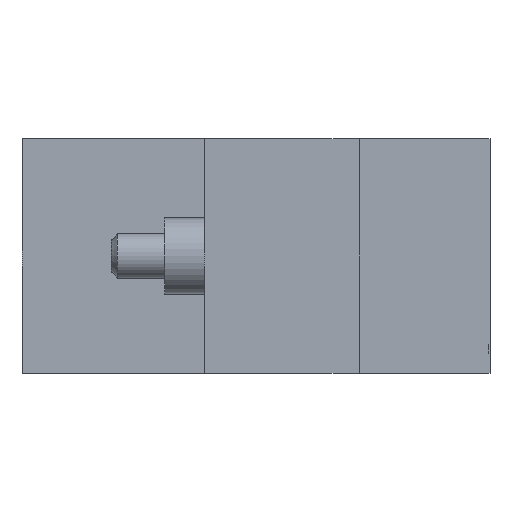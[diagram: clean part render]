
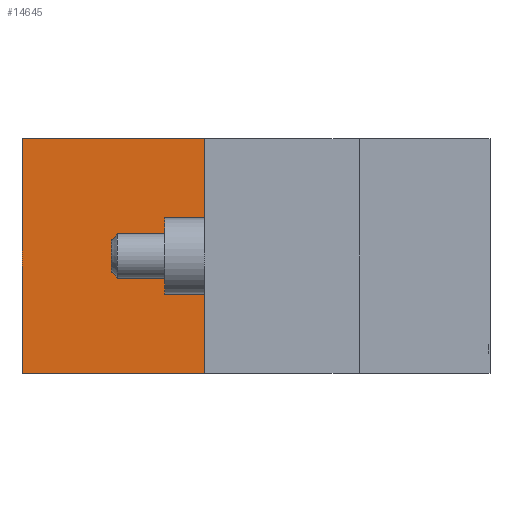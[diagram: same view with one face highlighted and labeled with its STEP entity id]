
A CAD part, front view. The second image highlights one B-rep face of the part: STEP entity #14645.
In plain terms, the highlighted planar face has unit normal (0, -1, 0).
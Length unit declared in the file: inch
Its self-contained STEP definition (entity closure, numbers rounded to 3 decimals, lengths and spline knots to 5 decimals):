
#2418=FACE_OUTER_BOUND($,#3588,.T.);
#3588=EDGE_LOOP($,(#12356,#12357,#12358,#12359));
#3679=LINE($,#18362,#4693);
#4632=LINE($,#25522,#5646);
#4633=LINE($,#25524,#5647);
#4634=LINE($,#25525,#5648);
#4693=VECTOR($,#15598,0.46);
#5646=VECTOR($,#18107,0.59);
#5647=VECTOR($,#18108,0.46);
#5648=VECTOR($,#18109,0.59);
#5707=VERTEX_POINT($,#18359);
#5708=VERTEX_POINT($,#18361);
#6961=VERTEX_POINT($,#25521);
#6962=VERTEX_POINT($,#25523);
#7043=EDGE_CURVE($,#5708,#5707,#3679,.T.);
#8786=EDGE_CURVE($,#5707,#6961,#4632,.T.);
#8787=EDGE_CURVE($,#6962,#6961,#4633,.T.);
#8788=EDGE_CURVE($,#5708,#6962,#4634,.T.);
#12356=ORIENTED_EDGE($,*,*,#8786,.T.);
#12357=ORIENTED_EDGE($,*,*,#8787,.F.);
#12358=ORIENTED_EDGE($,*,*,#8788,.F.);
#12359=ORIENTED_EDGE($,*,*,#7043,.T.);
#12995=PLANE($,#15496);
#14645=ADVANCED_FACE($,(#2418),#12995,.T.);
#15496=AXIS2_PLACEMENT_3D($,#25520,#18105,#18106);
#15598=DIRECTION($,(-1.,0.,0.));
#18105=DIRECTION('center_axis',(0.,-1.,0.));
#18106=DIRECTION('ref_axis',(0.,0.,-1.));
#18107=DIRECTION($,(0.,0.,-1.));
#18108=DIRECTION($,(-1.,0.,0.));
#18109=DIRECTION($,(0.,0.,-1.));
#18359=CARTESIAN_POINT('',(-1.02718,-2.83274,0.295));
#18361=CARTESIAN_POINT('',(-0.56718,-2.83274,0.295));
#18362=CARTESIAN_POINT($,(-0.56718,-2.83274,0.295));
#25520=CARTESIAN_POINT('Origin',(-0.56718,-2.83274,0.295));
#25521=CARTESIAN_POINT('',(-1.02718,-2.83274,-0.295));
#25522=CARTESIAN_POINT($,(-1.02718,-2.83274,0.295));
#25523=CARTESIAN_POINT('',(-0.56718,-2.83274,-0.295));
#25524=CARTESIAN_POINT($,(-0.56718,-2.83274,-0.295));
#25525=CARTESIAN_POINT($,(-0.56718,-2.83274,0.1475));
